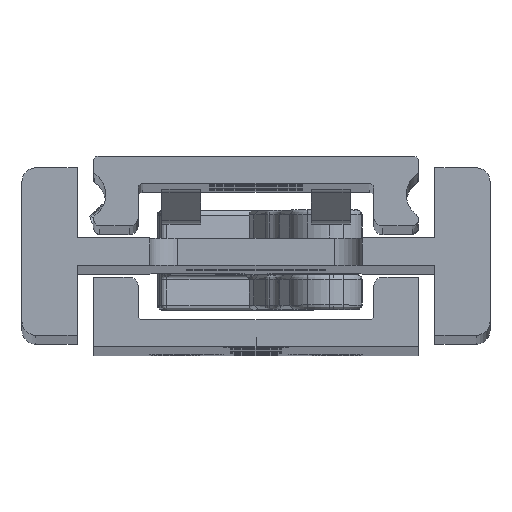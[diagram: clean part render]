
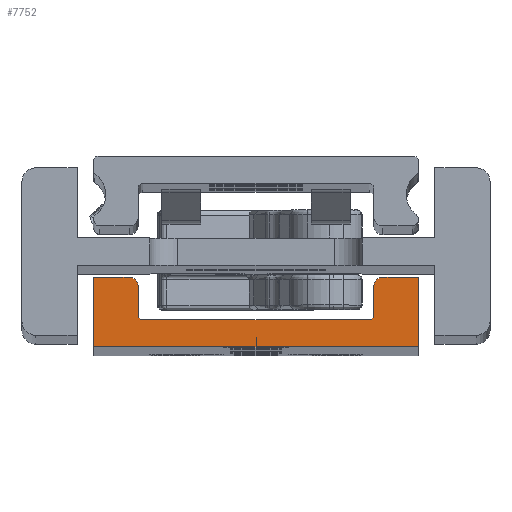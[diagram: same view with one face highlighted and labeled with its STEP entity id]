
A CAD part, top view. The second image highlights one B-rep face of the part: STEP entity #7752.
In plain terms, the highlighted planar face has unit normal (0, 0, 1).
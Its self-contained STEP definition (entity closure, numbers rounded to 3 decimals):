
#103 = VECTOR ( 'NONE', #7198, 1000. ) ;
#104 = EDGE_CURVE ( 'NONE', #17559, #4949, #17180, .T. ) ;
#269 = LINE ( 'NONE', #13305, #17118 ) ;
#314 = CARTESIAN_POINT ( 'NONE',  ( -17.6, -3.65, 274. ) ) ;
#494 = VERTEX_POINT ( 'NONE', #8013 ) ;
#589 = CIRCLE ( 'NONE', #10093, 1. ) ;
#647 = DIRECTION ( 'NONE',  ( 0., 1., 0. ) ) ;
#680 = EDGE_CURVE ( 'NONE', #16310, #17559, #6774, .T. ) ;
#800 = DIRECTION ( 'NONE',  ( 0., 0., -1. ) ) ;
#939 = CARTESIAN_POINT ( 'NONE',  ( 13.75, 3.4, 274. ) ) ;
#1080 = DIRECTION ( 'NONE',  ( -1., 0., 0. ) ) ;
#1242 = ORIENTED_EDGE ( 'NONE', *, *, #1828, .T. ) ;
#1284 = AXIS2_PLACEMENT_3D ( 'NONE', #3785, #800, #6477 ) ;
#1557 = CARTESIAN_POINT ( 'NONE',  ( 17.6, -4.15, 274. ) ) ;
#1709 = LINE ( 'NONE', #314, #103 ) ;
#1828 = EDGE_CURVE ( 'NONE', #14406, #7869, #7428, .T. ) ;
#1922 = DIRECTION ( 'NONE',  ( -1., 0., 0. ) ) ;
#2057 = CARTESIAN_POINT ( 'NONE',  ( 12.25, -1.2, 274. ) ) ;
#2134 = LINE ( 'NONE', #6044, #6898 ) ;
#2258 = VECTOR ( 'NONE', #1080, 1000. ) ;
#2295 = CARTESIAN_POINT ( 'NONE',  ( -12.75, 2.4, 274. ) ) ;
#2487 = CIRCLE ( 'NONE', #1284, 0.5 ) ;
#2616 = CARTESIAN_POINT ( 'NONE',  ( -16.909, 2.7, 274. ) ) ;
#2705 = DIRECTION ( 'NONE',  ( -1., 0., 0. ) ) ;
#2908 = CARTESIAN_POINT ( 'NONE',  ( -17.6, 2.591, 274. ) ) ;
#2934 = EDGE_CURVE ( 'NONE', #10670, #4466, #12780, .T. ) ;
#3034 = EDGE_CURVE ( 'NONE', #4759, #10017, #6721, .T. ) ;
#3199 = DIRECTION ( 'NONE',  ( 0., 0., 1. ) ) ;
#3424 = VECTOR ( 'NONE', #11663, 1000. ) ;
#3572 = EDGE_LOOP ( 'NONE', ( #10505, #11909, #15465, #4926, #4281, #17235, #18103, #13163, #4159, #1242, #6183, #16806, #12002, #8117, #11993, #15313, #14988 ) ) ;
#3785 = CARTESIAN_POINT ( 'NONE',  ( -12.25, -0.7, 274. ) ) ;
#3883 = AXIS2_PLACEMENT_3D ( 'NONE', #2616, #9607, #8033 ) ;
#4159 = ORIENTED_EDGE ( 'NONE', *, *, #13152, .T. ) ;
#4281 = ORIENTED_EDGE ( 'NONE', *, *, #4430, .T. ) ;
#4426 = DIRECTION ( 'NONE',  ( 0., 0., 1. ) ) ;
#4430 = EDGE_CURVE ( 'NONE', #5315, #16724, #8600, .T. ) ;
#4447 = CIRCLE ( 'NONE', #8611, 0.7 ) ;
#4466 = VERTEX_POINT ( 'NONE', #2908 ) ;
#4677 = CARTESIAN_POINT ( 'NONE',  ( 16.909, 2.7, 274. ) ) ;
#4690 = CARTESIAN_POINT ( 'NONE',  ( 12.75, 2.4, 274. ) ) ;
#4759 = VERTEX_POINT ( 'NONE', #8224 ) ;
#4926 = ORIENTED_EDGE ( 'NONE', *, *, #16131, .T. ) ;
#4949 = VERTEX_POINT ( 'NONE', #18303 ) ;
#4970 = CARTESIAN_POINT ( 'NONE',  ( 13.75, 2.4, 274. ) ) ;
#5163 = VECTOR ( 'NONE', #11284, 1000. ) ;
#5315 = VERTEX_POINT ( 'NONE', #1557 ) ;
#5917 = LINE ( 'NONE', #13081, #7681 ) ;
#5936 = CARTESIAN_POINT ( 'NONE',  ( 13.75, 3.4, 274. ) ) ;
#5947 = CARTESIAN_POINT ( 'NONE',  ( -17.1, -4.15, 274. ) ) ;
#6044 = CARTESIAN_POINT ( 'NONE',  ( -17.6, 3.4, 274. ) ) ;
#6183 = ORIENTED_EDGE ( 'NONE', *, *, #18226, .T. ) ;
#6343 = VECTOR ( 'NONE', #15736, 1000. ) ;
#6477 = DIRECTION ( 'NONE',  ( 1., 0., 0. ) ) ;
#6583 = EDGE_CURVE ( 'NONE', #13890, #4949, #2134, .T. ) ;
#6664 = CIRCLE ( 'NONE', #15353, 0.5 ) ;
#6721 = LINE ( 'NONE', #939, #13095 ) ;
#6774 = CIRCLE ( 'NONE', #17204, 1. ) ;
#6784 = DIRECTION ( 'NONE',  ( 0., 0., 1. ) ) ;
#6898 = VECTOR ( 'NONE', #647, 1000. ) ;
#7154 = LINE ( 'NONE', #5947, #16433 ) ;
#7198 = DIRECTION ( 'NONE',  ( 0., -1., 0. ) ) ;
#7428 = LINE ( 'NONE', #15928, #6343 ) ;
#7681 = VECTOR ( 'NONE', #14310, 1000. ) ;
#7752 = ADVANCED_FACE ( 'NONE', ( #13421 ), #11842, .T. ) ;
#7869 = VERTEX_POINT ( 'NONE', #17741 ) ;
#8013 = CARTESIAN_POINT ( 'NONE',  ( -17.6, -4.15, 274. ) ) ;
#8033 = DIRECTION ( 'NONE',  ( -1., 0., 0. ) ) ;
#8117 = ORIENTED_EDGE ( 'NONE', *, *, #11474, .T. ) ;
#8224 = CARTESIAN_POINT ( 'NONE',  ( 17.6, 3.4, 274. ) ) ;
#8596 = CARTESIAN_POINT ( 'NONE',  ( -16.909, 2.7, 274. ) ) ;
#8600 = LINE ( 'NONE', #12867, #3424 ) ;
#8611 = AXIS2_PLACEMENT_3D ( 'NONE', #8596, #12864, #14375 ) ;
#8917 = DIRECTION ( 'NONE',  ( 0., 0., -1. ) ) ;
#9482 = EDGE_CURVE ( 'NONE', #15863, #16474, #16929, .T. ) ;
#9570 = VERTEX_POINT ( 'NONE', #11584 ) ;
#9607 = DIRECTION ( 'NONE',  ( 0., 0., 1. ) ) ;
#10017 = VERTEX_POINT ( 'NONE', #5936 ) ;
#10093 = AXIS2_PLACEMENT_3D ( 'NONE', #4970, #3199, #13160 ) ;
#10106 = AXIS2_PLACEMENT_3D ( 'NONE', #17215, #4426, #14402 ) ;
#10279 = CARTESIAN_POINT ( 'NONE',  ( -12.25, -1.2, 274. ) ) ;
#10473 = CARTESIAN_POINT ( 'NONE',  ( -17.6, 2.809, 274. ) ) ;
#10505 = ORIENTED_EDGE ( 'NONE', *, *, #14206, .T. ) ;
#10670 = VERTEX_POINT ( 'NONE', #12413 ) ;
#11284 = DIRECTION ( 'NONE',  ( -1., 0., 0. ) ) ;
#11474 = EDGE_CURVE ( 'NONE', #13630, #16310, #5917, .T. ) ;
#11584 = CARTESIAN_POINT ( 'NONE',  ( 17.6, 2.809, 274. ) ) ;
#11663 = DIRECTION ( 'NONE',  ( 0., 1., 0. ) ) ;
#11842 = PLANE ( 'NONE',  #17086 ) ;
#11909 = ORIENTED_EDGE ( 'NONE', *, *, #2934, .T. ) ;
#11993 = ORIENTED_EDGE ( 'NONE', *, *, #680, .T. ) ;
#12002 = ORIENTED_EDGE ( 'NONE', *, *, #16304, .T. ) ;
#12413 = CARTESIAN_POINT ( 'NONE',  ( -17.609, 2.7, 274. ) ) ;
#12780 = CIRCLE ( 'NONE', #3883, 0.7 ) ;
#12827 = DIRECTION ( 'NONE',  ( 1., 0., 0. ) ) ;
#12864 = DIRECTION ( 'NONE',  ( 0., 0., 1. ) ) ;
#12867 = CARTESIAN_POINT ( 'NONE',  ( 17.6, -3.65, 274. ) ) ;
#12966 = CARTESIAN_POINT ( 'NONE',  ( -13.75, 3.4, 274. ) ) ;
#13081 = CARTESIAN_POINT ( 'NONE',  ( -12.75, -0.7, 274. ) ) ;
#13095 = VECTOR ( 'NONE', #2705, 1000. ) ;
#13152 = EDGE_CURVE ( 'NONE', #10017, #14406, #589, .T. ) ;
#13160 = DIRECTION ( 'NONE',  ( 1., 0., 0. ) ) ;
#13163 = ORIENTED_EDGE ( 'NONE', *, *, #3034, .T. ) ;
#13284 = CARTESIAN_POINT ( 'NONE',  ( 12.25, -0.7, 274. ) ) ;
#13305 = CARTESIAN_POINT ( 'NONE',  ( 17.6, 3.4, 274. ) ) ;
#13421 = FACE_OUTER_BOUND ( 'NONE', #3572, .T. ) ;
#13630 = VERTEX_POINT ( 'NONE', #16669 ) ;
#13890 = VERTEX_POINT ( 'NONE', #10473 ) ;
#14184 = CARTESIAN_POINT ( 'NONE',  ( -16.909, 3.4, 274. ) ) ;
#14206 = EDGE_CURVE ( 'NONE', #13890, #10670, #4447, .T. ) ;
#14235 = DIRECTION ( 'NONE',  ( -1., 0., 0. ) ) ;
#14310 = DIRECTION ( 'NONE',  ( 0., 1., 0. ) ) ;
#14375 = DIRECTION ( 'NONE',  ( -1., 0., 0. ) ) ;
#14402 = DIRECTION ( 'NONE',  ( 1., 0., 0. ) ) ;
#14406 = VERTEX_POINT ( 'NONE', #4690 ) ;
#14590 = CIRCLE ( 'NONE', #10106, 0.7 ) ;
#14640 = DIRECTION ( 'NONE',  ( 1., 0., 0. ) ) ;
#14874 = EDGE_CURVE ( 'NONE', #16724, #9570, #14590, .T. ) ;
#14988 = ORIENTED_EDGE ( 'NONE', *, *, #6583, .F. ) ;
#15313 = ORIENTED_EDGE ( 'NONE', *, *, #104, .T. ) ;
#15353 = AXIS2_PLACEMENT_3D ( 'NONE', #13284, #8917, #1922 ) ;
#15465 = ORIENTED_EDGE ( 'NONE', *, *, #16569, .T. ) ;
#15645 = CARTESIAN_POINT ( 'NONE',  ( -13.75, 2.4, 274. ) ) ;
#15736 = DIRECTION ( 'NONE',  ( 0., -1., 0. ) ) ;
#15863 = VERTEX_POINT ( 'NONE', #2057 ) ;
#15928 = CARTESIAN_POINT ( 'NONE',  ( 12.75, -0.7, 274. ) ) ;
#16058 = DIRECTION ( 'NONE',  ( 0., 0., 1. ) ) ;
#16131 = EDGE_CURVE ( 'NONE', #494, #5315, #7154, .T. ) ;
#16304 = EDGE_CURVE ( 'NONE', #16474, #13630, #2487, .T. ) ;
#16310 = VERTEX_POINT ( 'NONE', #2295 ) ;
#16433 = VECTOR ( 'NONE', #12827, 1000. ) ;
#16474 = VERTEX_POINT ( 'NONE', #10279 ) ;
#16569 = EDGE_CURVE ( 'NONE', #4466, #494, #1709, .T. ) ;
#16669 = CARTESIAN_POINT ( 'NONE',  ( -12.75, -0.7, 274. ) ) ;
#16724 = VERTEX_POINT ( 'NONE', #18036 ) ;
#16806 = ORIENTED_EDGE ( 'NONE', *, *, #9482, .T. ) ;
#16929 = LINE ( 'NONE', #17019, #2258 ) ;
#17019 = CARTESIAN_POINT ( 'NONE',  ( -12.25, -1.2, 274. ) ) ;
#17086 = AXIS2_PLACEMENT_3D ( 'NONE', #4677, #16058, #14640 ) ;
#17118 = VECTOR ( 'NONE', #17525, 1000. ) ;
#17180 = LINE ( 'NONE', #14184, #5163 ) ;
#17204 = AXIS2_PLACEMENT_3D ( 'NONE', #15645, #6784, #14235 ) ;
#17215 = CARTESIAN_POINT ( 'NONE',  ( 16.909, 2.7, 274. ) ) ;
#17235 = ORIENTED_EDGE ( 'NONE', *, *, #14874, .T. ) ;
#17525 = DIRECTION ( 'NONE',  ( 0., -1., 0. ) ) ;
#17559 = VERTEX_POINT ( 'NONE', #12966 ) ;
#17741 = CARTESIAN_POINT ( 'NONE',  ( 12.75, -0.7, 274. ) ) ;
#17984 = EDGE_CURVE ( 'NONE', #4759, #9570, #269, .T. ) ;
#18036 = CARTESIAN_POINT ( 'NONE',  ( 17.6, 2.591, 274. ) ) ;
#18103 = ORIENTED_EDGE ( 'NONE', *, *, #17984, .F. ) ;
#18226 = EDGE_CURVE ( 'NONE', #7869, #15863, #6664, .T. ) ;
#18303 = CARTESIAN_POINT ( 'NONE',  ( -17.6, 3.4, 274. ) ) ;
